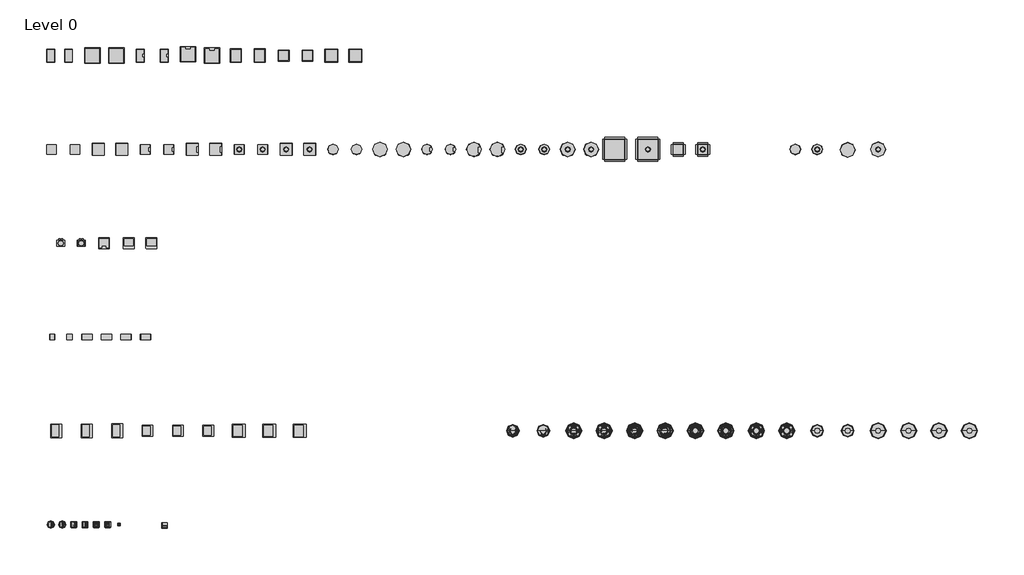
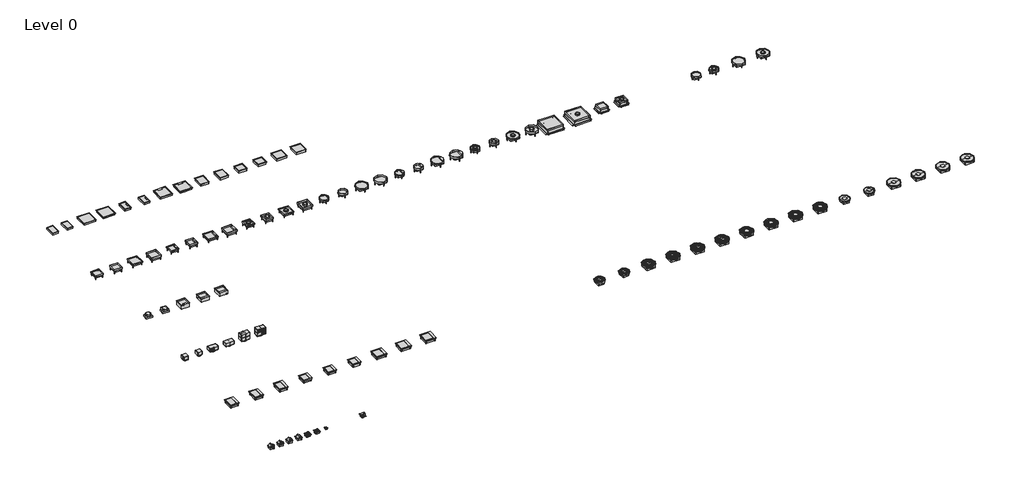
# One storey, incomplete: 90 proxies.
"""IFC4 building model written with IfcOpenShell, lengths in millimetres."""

from ifc_helpers import new_model, si_unit, origin, place, context, project, spatial, transform, mapped, element, save
from components import electrical_fixtures_743d87c8, electrical_fixtures_e7bc1b67, electrical_fixtures_7e9932c4, electrical_fixtures_4295cd90, electrical_fixtures_7c6a3819, electrical_fixtures_d994656d, electrical_fixtures_8ed366d0, electrical_fixtures_8427cab8, electrical_fixtures_0c983d80, electrical_fixtures_e9da0c22, electrical_fixtures_e29cb0aa, electrical_fixtures_c710c140, electrical_fixtures_057aeb0d, electrical_fixtures_bc096a6a, electrical_fixtures_3c529a4b, electrical_fixtures_d6e92de2, electrical_fixtures_b99c55f5, electrical_fixtures_db793506, electrical_fixtures_a87f9cbd, electrical_fixtures_5eeed26f, electrical_fixtures_7c2ed13a, electrical_fixtures_18f01fef, electrical_fixtures_62458b07, electrical_fixtures_8552437b, electrical_fixtures_c54f30ff, color_deep_black_142afe5e, color_deep_black_872dce2f, color_deep_black_c4cdae59, color_deep_black_3e0b7094, color_deep_black_f01a6ed9, color_deep_black_c19cb628, color_deep_black_09ea9520, color_deep_black_6ce427fe, color_deep_black_894d2ac0, color_deep_black_fa90bbad, color_iron_grey_202d30bf, color_iron_grey_919f03ab, color_iron_grey_fbafdded, junction_box_round_125_mm_upper_part_alum_29b8801a, junction_box_square_125_mm_upper_part_alum_607a975c, schuko_socket_2_pole_pure_white_34ad4e96, stainless_steel_cassette_q06_bl_outer_height_28mm_3feceee3, stainless_steel_cassette_q06_bl_outer_height_43mm_a47f6d24, stainless_steel_cassette_q06_le_outer_height_28mm_edae0cbb, stainless_steel_cassette_q06_le_outer_height_43mm_17e8f02e, stainless_steel_cassette_q06_tm_outer_height_28mm_42a79757, stainless_steel_cassette_q06_tm_outer_height_43mm_c42f4f61, stainless_steel_cassette_q06_blank_20_kn_74425823, stainless_steel_cassette_q12_bl_outer_height_28mm_38aa1d54, stainless_steel_cassette_q12_bl_outer_height_43mm_9d157af6, stainless_steel_cassette_q12_le_outer_height_28mm_4387def9, stainless_steel_cassette_q12_le_outer_height_43mm_76769e65, stainless_steel_cassette_q12_tm_outer_height_28mm_6e70061e, stainless_steel_cassette_q12_tm_outer_height_43mm_7061454b, stainless_steel_cassette_q405_blank_20_kn_5d11f7c2, stainless_steel_cassette_r06_bl_outer_height_28mm_a6870199, stainless_steel_cassette_r06_bl_outer_height_43mm_2dd6e790, stainless_steel_cassette_r06_le_outer_height_28mm_c526c0f7, stainless_steel_cassette_r06_le_outer_height_43mm_8ea11e9a, stainless_steel_cassette_r06_tm_outer_height_28mm_dfc4136d, stainless_steel_cassette_r06_tm_outer_height_43mm_7b33f558, stainless_steel_cassette_r06_blank_20_kn_3fd5dd5a, stainless_steel_cassette_r12_bl_outer_height_28mm_3aa149c4, stainless_steel_cassette_r12_bl_outer_height_43mm_c021857a, stainless_steel_cassette_r12_le_outer_height_28mm_2c233eef, stainless_steel_cassette_r12_le_outer_height_43mm_344dba82, stainless_steel_cassette_r12_tm_outer_height_28mm_8c430b26, stainless_steel_cassette_r12_tm_outer_height_43mm_cc083f38, stainless_steel_cassette_r12_blank_20_kn_ac97d473

model = new_model("IFC4")

# Units and contexts
model_context = context("Model", 3, world=origin())
ifc_project = project(units=[si_unit("LENGTHUNIT", "METRE", prefix="MILLI")], contexts=[model_context])

# Site, building, storey
site = spatial("IfcSite", under=ifc_project)
building = spatial("IfcBuilding", under=site)
storey = spatial("IfcBuildingStorey", under=building, Name="Level 0", Elevation=0.0)

# Proxies
placement = place(None, origin())
electrical_fixtures_shape = electrical_fixtures_743d87c8(model_context)
element("IfcBuildingElementProxy", 1, Name="Electrical_Installation_Hager_VE-EE_EKSQ405TM-Heavy-duty-cassette-Q405-with-tube-mounting-set : Stainless-steel cassette Q405 TM 20 kN", ObjectType="Electrical_Installation_Hager_VE-EE_EKSQ405TM-Heavy-duty-cassette-Q405-with-tube-mounting-set : Stainless-steel cassette Q405 TM 20 kN", at=placement, inside=storey, context=model_context, shape_type="MappedRepresentation", body=[
    mapped(electrical_fixtures_shape, transform((-9179.6527892, 1904.5454877, 0.0), x_axis=(0.0, 1.0, 0.0), y_axis=(-1.0, 0.0, 0.0), z_axis=(0.0, 0.0, 1.0))),
])
electrical_fixtures_2_shape = electrical_fixtures_e7bc1b67(model_context)
element("IfcBuildingElementProxy", 2, Name="Electrical_Installation_Hager_VE-EE_EKSQ0620TM-Heavy-duty-cassette-Q06-with-tube-mounting-set : Stainless-steel cassette Q06 TM 20 kN", ObjectType="Electrical_Installation_Hager_VE-EE_EKSQ0620TM-Heavy-duty-cassette-Q06-with-tube-mounting-set : Stainless-steel cassette Q06 TM 20 kN", at=placement, inside=storey, context=model_context, shape_type="MappedRepresentation", body=[
    mapped(electrical_fixtures_2_shape, transform((-8070.6609591, 1904.5454877, 0.0), x_axis=(0.0, 1.0, 0.0), y_axis=(-1.0, 0.0, 0.0), z_axis=(0.0, 0.0, 1.0))),
])
electrical_fixtures_3_shape = electrical_fixtures_7e9932c4(model_context)
element("IfcBuildingElementProxy", 3, Name="Electrical_Installation_Hager_VE-EE_EKSR0620TM-Heavy-duty-cassette-R06-with-tube-mounting-set : Stainless-steel cassette R06 TM 20 kN", ObjectType="Electrical_Installation_Hager_VE-EE_EKSR0620TM-Heavy-duty-cassette-R06-with-tube-mounting-set : Stainless-steel cassette R06 TM 20 kN", at=placement, inside=storey, context=model_context, shape_type="MappedRepresentation", body=[
    mapped(electrical_fixtures_3_shape, transform((-5749.7356105, 1904.5454877, 0.0), x_axis=(0.0, 1.0, 0.0), y_axis=(-1.0, 0.0, 0.0), z_axis=(0.0, 0.0, 1.0))),
])
electrical_fixtures_4_shape = electrical_fixtures_4295cd90(model_context)
element("IfcBuildingElementProxy", 4, Name="Electrical_Installation_Hager_VE-EE_EKSR1220TM-Heavy-duty-cassette-R12-with-tube-mounting-set : Stainless-steel cassette R12 TM 20 kN", ObjectType="Electrical_Installation_Hager_VE-EE_EKSR1220TM-Heavy-duty-cassette-R12-with-tube-mounting-set : Stainless-steel cassette R12 TM 20 kN", at=placement, inside=storey, context=model_context, shape_type="MappedRepresentation", body=[
    mapped(electrical_fixtures_4_shape, transform((-4516.4022772, 1904.5454877, 0.0), x_axis=(0.0, 1.0, 0.0), y_axis=(-1.0, 0.0, 0.0), z_axis=(0.0, 0.0, 1.0))),
])
electrical_fixtures_5_shape = electrical_fixtures_7c6a3819(model_context)
element("IfcBuildingElementProxy", 5, Name="Electrical_Installation_Hager_VE-EE_Pedestal-box-8 : GB pedestal box 8 inst. fields deep black", ObjectType="Electrical_Installation_Hager_VE-EE_Pedestal-box-8 : GB pedestal box 8 inst. fields deep black", at=placement, inside=storey, context=model_context, shape_type="MappedRepresentation", body=[
    mapped(electrical_fixtures_5_shape, transform((-19355.1710348, -1895.4545123, 0.0), x_axis=(0.0, 1.0, 0.0), y_axis=(-1.0, 0.0, 0.0), z_axis=(0.0, 0.0, 1.0))),
])
electrical_fixtures_6_shape = electrical_fixtures_d994656d(model_context)
element("IfcBuildingElementProxy", 6, Name="Electrical_Installation_Hager_VE-EE_Pedestal-box-2 : GB pedestal box 2 inst. fields deep black", ObjectType="Electrical_Installation_Hager_VE-EE_Pedestal-box-2 : GB pedestal box 2 inst. fields deep black", at=placement, inside=storey, context=model_context, shape_type="MappedRepresentation", body=[
    mapped(electrical_fixtures_6_shape, transform((-20897.1167656, -1895.4545123, 0.0), x_axis=(0.0, 1.0, 0.0), y_axis=(-1.0, 0.0, 0.0), z_axis=(0.0, 0.0, 1.0))),
])
electrical_fixtures_7_shape = electrical_fixtures_8ed366d0(model_context)
element("IfcBuildingElementProxy", 7, Name="Electrical_Installation_Hager_VE-EE_Pedestal-box-4 : GB pedestal box 4 inst. fields deep black", ObjectType="Electrical_Installation_Hager_VE-EE_Pedestal-box-4 : GB pedestal box 4 inst. fields deep black", at=placement, inside=storey, context=model_context, shape_type="MappedRepresentation", body=[
    mapped(electrical_fixtures_7_shape, transform((-20148.6439002, -1895.4545123, 0.0), x_axis=(0.0, 1.0, 0.0), y_axis=(-1.0, 0.0, 0.0), z_axis=(0.0, 0.0, 1.0))),
])
electrical_fixtures_8_shape = electrical_fixtures_8427cab8(model_context)
element("IfcBuildingElementProxy", 8, Name="Electrical_Installation_Hager_VE-EE_Service-unit-VQ12-made-of-stainless-steel : Electrical_Installation_Hager_VE-EE_Service-unit-VQ12-made-of-stainless-steel", ObjectType="Electrical_Installation_Hager_VE-EE_Service-unit-VQ12-made-of-stainless-steel : Electrical_Installation_Hager_VE-EE_Service-unit-VQ12-made-of-stainless-steel", at=placement, inside=storey, context=model_context, shape_type="MappedRepresentation", body=[
    mapped(electrical_fixtures_8_shape, transform((-16233.0689438, -3795.4545123, 0.0), x_axis=(0.0, 1.0, 0.0), y_axis=(-1.0, 0.0, 0.0), z_axis=(0.0, 0.0, 1.0))),
])
electrical_fixtures_9_shape = electrical_fixtures_0c983d80(model_context)
element("IfcBuildingElementProxy", 9, Name="Electrical_Installation_Hager_VE-EE_VANR_3mm_Service-unit-for-wet-cleaned-floors-for-the-installation-of-tube-cable-outlets-made-of-aluminium : Service unit R2 w set HB wet Al-Tub 3mm", ObjectType="Electrical_Installation_Hager_VE-EE_VANR_3mm_Service-unit-for-wet-cleaned-floors-for-the-installation-of-tube-cable-outlets-made-of-aluminium : Service unit R2 w set HB wet Al-Tub 3mm", at=placement, inside=storey, context=model_context, shape_type="MappedRepresentation", body=[
    mapped(electrical_fixtures_9_shape, transform((-5133.0689438, -3793.4261787, 0.0), x_axis=(0.0, 1.0, 0.0), y_axis=(-1.0, 0.0, 0.0), z_axis=(0.0, 0.0, 1.0))),
])
element("IfcBuildingElementProxy", 10, Name="Electrical_Installation_Hager_VE-EE_VANR_3mm_Service-unit-for-wet-cleaned-floors-for-the-installation-of-tube-cable-outlets-made-of-aluminium : Service unit R2 w set BD wet Al-Tub 3mm", ObjectType="Electrical_Installation_Hager_VE-EE_VANR_3mm_Service-unit-for-wet-cleaned-floors-for-the-installation-of-tube-cable-outlets-made-of-aluminium : Service unit R2 w set BD wet Al-Tub 3mm", at=placement, inside=storey, context=model_context, shape_type="MappedRepresentation", body=[
    mapped(electrical_fixtures_9_shape, transform((-5749.7356105, -3795.4545123, 0.0), x_axis=(0.0, 1.0, 0.0), y_axis=(-1.0, 0.0, 0.0), z_axis=(0.0, 0.0, 1.0))),
])
electrical_fixtures_10_shape = electrical_fixtures_e9da0c22(model_context)
element("IfcBuildingElementProxy", 11, Name="Electrical_Installation_Hager_VE-EE_VANR_3mm_Service-unit-for-wet-cleaned-floors-for-the-installation-tube-cable-outlet-made-of-aluminium : Service unit R12 w wet BD wet Al-Tub 3mm", ObjectType="Electrical_Installation_Hager_VE-EE_VANR_3mm_Service-unit-for-wet-cleaned-floors-for-the-installation-tube-cable-outlet-made-of-aluminium : Service unit R12 w wet BD wet Al-Tub 3mm", at=placement, inside=storey, context=model_context, shape_type="MappedRepresentation", body=[
    mapped(electrical_fixtures_10_shape, transform((-3899.7356105, -3795.4545123, 0.0), x_axis=(0.0, 1.0, 0.0), y_axis=(-1.0, 0.0, 0.0), z_axis=(0.0, 0.0, 1.0))),
])
electrical_fixtures_11_shape = electrical_fixtures_e29cb0aa(model_context)
element("IfcBuildingElementProxy", 12, Name="Electrical_Installation_Hager_VE-EE_VANR_3mm_Service-unit-for-wet-cleaned-floors-for-the-installation-tube-cable-outlet-made-of-aluminium : Service unit R12 w set HB wet Al-Tub 3mm", ObjectType="Electrical_Installation_Hager_VE-EE_VANR_3mm_Service-unit-for-wet-cleaned-floors-for-the-installation-tube-cable-outlet-made-of-aluminium : Service unit R12 w set HB wet Al-Tub 3mm", at=placement, inside=storey, context=model_context, shape_type="MappedRepresentation", body=[
    mapped(electrical_fixtures_11_shape, transform((-4516.4022772, -3795.4545123, 0.0), x_axis=(0.0, 1.0, 0.0), y_axis=(-1.0, 0.0, 0.0), z_axis=(0.0, 0.0, 1.0))),
])
element("IfcBuildingElementProxy", 13, Name="Electrical_Installation_Hager_VE-EE_VANR_3mm_Service-unit-for-wet-cleaned-floors-with-tube-cable-outlete-made-of-polyamide : Service unit R12 w set BD wet PA-T Al 3mm", ObjectType="Electrical_Installation_Hager_VE-EE_VANR_3mm_Service-unit-for-wet-cleaned-floors-with-tube-cable-outlete-made-of-polyamide : Service unit R12 w set BD wet PA-T Al 3mm", at=placement, inside=storey, context=model_context, shape_type="MappedRepresentation", body=[
    mapped(electrical_fixtures_10_shape, transform((-3283.0689438, -3795.4545123, 0.0), x_axis=(0.0, 1.0, 0.0), y_axis=(-1.0, 0.0, 0.0), z_axis=(0.0, 0.0, 1.0))),
])
element("IfcBuildingElementProxy", 14, Name="Electrical_Installation_Hager_VE-EE_VANR_3mm_Service-unit-for-wet-cleaned-floors-with-tube-cable-outlete-made-of-polyamide : Service unit R12 w set HB wet PA-T Al 3mm", ObjectType="Electrical_Installation_Hager_VE-EE_VANR_3mm_Service-unit-for-wet-cleaned-floors-with-tube-cable-outlete-made-of-polyamide : Service unit R12 w set HB wet PA-T Al 3mm", at=placement, inside=storey, context=model_context, shape_type="MappedRepresentation", body=[
    mapped(electrical_fixtures_11_shape, transform((-2666.4022772, -3795.4545123, 0.0), x_axis=(0.0, 1.0, 0.0), y_axis=(-1.0, 0.0, 0.0), z_axis=(0.0, 0.0, 1.0))),
])
electrical_fixtures_12_shape = electrical_fixtures_c710c140(model_context)
element("IfcBuildingElementProxy", 15, Name="Electrical_Installation_Hager_VE-EE_VANR-Service-unit-for-wet-cleaned-floors-for-the-installation-of-tube-cable-outlets-made-of-aluminium : Service unit R12 w set HB wet Al-Tub R deep black", ObjectType="Electrical_Installation_Hager_VE-EE_VANR-Service-unit-for-wet-cleaned-floors-for-the-installation-of-tube-cable-outlets-made-of-aluminium : Service unit R12 w set HB wet Al-Tub R deep black", at=placement, inside=storey, context=model_context, shape_type="MappedRepresentation", body=[
    mapped(electrical_fixtures_12_shape, transform((-11299.7356105, -3795.4545123, 0.0), x_axis=(0.0, 1.0, 0.0), y_axis=(-1.0, 0.0, 0.0), z_axis=(0.0, 0.0, 1.0))),
])
element("IfcBuildingElementProxy", 16, Name="Electrical_Installation_Hager_VE-EE_VANR-Service-unit-for-wet-cleaned-floors-for-the-installation-of-tube-cable-outlets-made-of-aluminium : Service unit R12 w set BD wet Al-Tub R deep black", ObjectType="Electrical_Installation_Hager_VE-EE_VANR-Service-unit-for-wet-cleaned-floors-for-the-installation-of-tube-cable-outlets-made-of-aluminium : Service unit R12 w set BD wet Al-Tub R deep black", at=placement, inside=storey, context=model_context, shape_type="MappedRepresentation", body=[
    mapped(electrical_fixtures_12_shape, transform((-11916.4022772, -3795.4545123, 0.0), x_axis=(0.0, 1.0, 0.0), y_axis=(-1.0, 0.0, 0.0), z_axis=(0.0, 0.0, 1.0))),
])
electrical_fixtures_13_shape = electrical_fixtures_057aeb0d(model_context)
element("IfcBuildingElementProxy", 17, Name="Electrical_Installation_Hager_VE-EE_VANR-Service-unit-for-wet-cleaned-floors-for-the-installation-tube-cable-outlet-made-of-aluminium : Service unit R12 w set BD wet Al-Tub R", ObjectType="Electrical_Installation_Hager_VE-EE_VANR-Service-unit-for-wet-cleaned-floors-for-the-installation-tube-cable-outlet-made-of-aluminium : Service unit R12 w set BD wet Al-Tub R", at=placement, inside=storey, context=model_context, shape_type="MappedRepresentation", body=[
    mapped(electrical_fixtures_13_shape, transform((-10683.0689438, -3795.4545123, 0.0), x_axis=(0.0, 1.0, 0.0), y_axis=(-1.0, 0.0, 0.0), z_axis=(0.0, 0.0, 1.0))),
])
element("IfcBuildingElementProxy", 18, Name="Electrical_Installation_Hager_VE-EE_VANR-Service-unit-for-wet-cleaned-floors-for-the-installation-tube-cable-outlet-made-of-aluminium : Service unit R12 w set HB wet Al-Tub R", ObjectType="Electrical_Installation_Hager_VE-EE_VANR-Service-unit-for-wet-cleaned-floors-for-the-installation-tube-cable-outlet-made-of-aluminium : Service unit R12 w set HB wet Al-Tub R", at=placement, inside=storey, context=model_context, shape_type="MappedRepresentation", body=[
    mapped(electrical_fixtures_13_shape, transform((-9449.7356105, -3795.4545123, 0.0), x_axis=(0.0, 1.0, 0.0), y_axis=(-1.0, 0.0, 0.0), z_axis=(0.0, 0.0, 1.0))),
])
element("IfcBuildingElementProxy", 19, Name="Electrical_Installation_Hager_VE-EE_VANR-Service-unit-for-wet-cleaned-floors-for-the-installation-tube-cable-outlet-made-of-aluminium : Service unit R12 w set HB wet Al-Tub R deep black", ObjectType="Electrical_Installation_Hager_VE-EE_VANR-Service-unit-for-wet-cleaned-floors-for-the-installation-tube-cable-outlet-made-of-aluminium : Service unit R12 w set HB wet Al-Tub R deep black", at=placement, inside=storey, context=model_context, shape_type="MappedRepresentation", body=[
    mapped(electrical_fixtures_13_shape, transform((-8833.0689438, -3795.4545123, 0.0), x_axis=(0.0, 1.0, 0.0), y_axis=(-1.0, 0.0, 0.0), z_axis=(0.0, 0.0, 1.0))),
])
element("IfcBuildingElementProxy", 20, Name="Electrical_Installation_Hager_VE-EE_VANR-Service-unit-for-wet-cleaned-floors-for-the-installation-tube-cable-outlet-made-of-aluminium : Service unit R12 w set BD wet Al-Tub R deep black", ObjectType="Electrical_Installation_Hager_VE-EE_VANR-Service-unit-for-wet-cleaned-floors-for-the-installation-tube-cable-outlet-made-of-aluminium : Service unit R12 w set BD wet Al-Tub R deep black", at=placement, inside=storey, context=model_context, shape_type="MappedRepresentation", body=[
    mapped(electrical_fixtures_13_shape, transform((-10066.4022772, -3795.4545123, 0.0), x_axis=(0.0, 1.0, 0.0), y_axis=(-1.0, 0.0, 0.0), z_axis=(0.0, 0.0, 1.0))),
])
electrical_fixtures_14_shape = electrical_fixtures_bc096a6a(model_context)
element("IfcBuildingElementProxy", 21, Name="Electrical_Installation_Hager_VE-EE_VANR-Service-unit-for-wet-cleaned-floors-with-tube-cable-outlete-made-of-polyamide : Service  unit R12 w set BD wet PA-Tub Al R", ObjectType="Electrical_Installation_Hager_VE-EE_VANR-Service-unit-for-wet-cleaned-floors-with-tube-cable-outlete-made-of-polyamide : Service  unit R12 w set BD wet PA-Tub Al R", at=placement, inside=storey, context=model_context, shape_type="MappedRepresentation", body=[
    mapped(electrical_fixtures_14_shape, transform((-8216.4022772, -3795.4545123, 0.0), x_axis=(0.0, 1.0, 0.0), y_axis=(-1.0, 0.0, 0.0), z_axis=(0.0, 0.0, 1.0))),
])
element("IfcBuildingElementProxy", 22, Name="Electrical_Installation_Hager_VE-EE_VANR-Service-unit-for-wet-cleaned-floors-with-tube-cable-outlete-made-of-polyamide : Service unit R12 w set HB wet PA-Tub Al R", ObjectType="Electrical_Installation_Hager_VE-EE_VANR-Service-unit-for-wet-cleaned-floors-with-tube-cable-outlete-made-of-polyamide : Service unit R12 w set HB wet PA-Tub Al R", at=placement, inside=storey, context=model_context, shape_type="MappedRepresentation", body=[
    mapped(electrical_fixtures_14_shape, transform((-6366.4022772, -3795.4545123, 0.0), x_axis=(0.0, 1.0, 0.0), y_axis=(-1.0, 0.0, 0.0), z_axis=(0.0, 0.0, 1.0))),
])
element("IfcBuildingElementProxy", 23, Name="Electrical_Installation_Hager_VE-EE_VANR-Service-unit-for-wet-cleaned-floors-with-tube-cable-outlete-made-of-polyamide : Service unit R12 w set HB wet PA-T Al R deep black", ObjectType="Electrical_Installation_Hager_VE-EE_VANR-Service-unit-for-wet-cleaned-floors-with-tube-cable-outlete-made-of-polyamide : Service unit R12 w set HB wet PA-T Al R deep black", at=placement, inside=storey, context=model_context, shape_type="MappedRepresentation", body=[
    mapped(electrical_fixtures_14_shape, transform((-6983.0689438, -3795.4545123, 0.0), x_axis=(0.0, 1.0, 0.0), y_axis=(-1.0, 0.0, 0.0), z_axis=(0.0, 0.0, 1.0))),
])
element("IfcBuildingElementProxy", 24, Name="Electrical_Installation_Hager_VE-EE_VANR-Service-unit-for-wet-cleaned-floors-with-tube-cable-outlete-made-of-polyamide : Service unit R12 w set BD wet PA-T Al R deep black", ObjectType="Electrical_Installation_Hager_VE-EE_VANR-Service-unit-for-wet-cleaned-floors-with-tube-cable-outlete-made-of-polyamide : Service unit R12 w set BD wet PA-T Al R deep black", at=placement, inside=storey, context=model_context, shape_type="MappedRepresentation", body=[
    mapped(electrical_fixtures_14_shape, transform((-7599.7356105, -3795.4545123, 0.0), x_axis=(0.0, 1.0, 0.0), y_axis=(-1.0, 0.0, 0.0), z_axis=(0.0, 0.0, 1.0))),
])
electrical_fixtures_15_shape = electrical_fixtures_3c529a4b(model_context)
element("IfcBuildingElementProxy", 25, Name="Electrical_Installation_Hager_VE-EE_Service-unit-VQ06-made-of-stainless-steel : Electrical_Installation_Hager_VE-EE_Service-unit-VQ06-made-of-stainless-steel", ObjectType="Electrical_Installation_Hager_VE-EE_Service-unit-VQ06-made-of-stainless-steel : Electrical_Installation_Hager_VE-EE_Service-unit-VQ06-made-of-stainless-steel", at=placement, inside=storey, context=model_context, shape_type="MappedRepresentation", body=[
    mapped(electrical_fixtures_15_shape, transform((-18083.0689438, -3795.4545123, 0.0), x_axis=(0.0, 1.0, 0.0), y_axis=(-1.0, 0.0, 0.0), z_axis=(0.0, 0.0, 1.0))),
])
electrical_fixtures_16_shape = electrical_fixtures_d6e92de2(model_context)
element("IfcBuildingElementProxy", 26, Name="Electrical_Installation_Hager_VE-EE_Device-casing-for-data-systems-technology-for-hinged-cover : Dev. cas. for KDQ08/E04 f 2 Inst.dev. R 50", ObjectType="Electrical_Installation_Hager_VE-EE_Device-casing-for-data-systems-technology-for-hinged-cover : Dev. cas. for KDQ08/E04 f 2 Inst.dev. R 50", at=placement, inside=storey, context=model_context, shape_type="MappedRepresentation", body=[
    mapped(electrical_fixtures_16_shape, transform((-18973.3184691, -5686.9306038, 0.0), x_axis=(1.0, 0.0, 0.0), y_axis=(0.0, 1.0, 0.0), z_axis=(0.0, 0.0, 1.0))),
])
electrical_fixtures_17_shape = electrical_fixtures_b99c55f5(model_context)
element("IfcBuildingElementProxy", 27, Name="Electrical_Installation_Hager_VE-EE_Floor-socket-round : Floor socket round single a. RJ45 stainl.", ObjectType="Electrical_Installation_Hager_VE-EE_Floor-socket-round : Floor socket round single a. RJ45 stainl.", at=placement, inside=storey, context=model_context, shape_type="MappedRepresentation", body=[
    mapped(electrical_fixtures_17_shape, transform((-21045.271513, -5695.4545123, 0.0), x_axis=(0.0, 1.0, 0.0), y_axis=(-1.0, 0.0, 0.0), z_axis=(0.0, 0.0, 1.0))),
])
element("IfcBuildingElementProxy", 28, Name="Electrical_Installation_Hager_VE-EE_Floor-socket-round : Floor socket round single a. RJ45 bronze", ObjectType="Electrical_Installation_Hager_VE-EE_Floor-socket-round : Floor socket round single a. RJ45 bronze", at=placement, inside=storey, context=model_context, shape_type="MappedRepresentation", body=[
    mapped(electrical_fixtures_17_shape, transform((-21275.4885178, -5695.4545123, 0.0), x_axis=(0.0, 1.0, 0.0), y_axis=(-1.0, 0.0, 0.0), z_axis=(0.0, 0.0, 1.0))),
])
electrical_fixtures_18_shape = electrical_fixtures_db793506(model_context)
element("IfcBuildingElementProxy", 29, Name="Electrical_Installation_Hager_VE-EE_Floor-socket-square : Floor socket square single a. RJ45 stainl.", ObjectType="Electrical_Installation_Hager_VE-EE_Floor-socket-square : Floor socket square single a. RJ45 stainl.", at=placement, inside=storey, context=model_context, shape_type="MappedRepresentation", body=[
    mapped(electrical_fixtures_18_shape, transform((-20584.8375032, -5695.4545123, 0.0), x_axis=(0.0, 1.0, 0.0), y_axis=(-1.0, 0.0, 0.0), z_axis=(0.0, 0.0, 1.0))),
])
element("IfcBuildingElementProxy", 30, Name="Electrical_Installation_Hager_VE-EE_Floor-socket-square : Floor socket square single a. RJ45 bronze", ObjectType="Electrical_Installation_Hager_VE-EE_Floor-socket-square : Floor socket square single a. RJ45 bronze", at=placement, inside=storey, context=model_context, shape_type="MappedRepresentation", body=[
    mapped(electrical_fixtures_18_shape, transform((-20815.0545081, -5695.4545123, 0.0), x_axis=(0.0, 1.0, 0.0), y_axis=(-1.0, 0.0, 0.0), z_axis=(0.0, 0.0, 1.0))),
])
electrical_fixtures_19_shape = electrical_fixtures_a87f9cbd(model_context)
element("IfcBuildingElementProxy", 31, Name="Electrical_Installation_Hager_VE-EE_Floor-socket-square-with-wing-opening : Floor socket square single a. RJ45 bronze", ObjectType="Electrical_Installation_Hager_VE-EE_Floor-socket-square-with-wing-opening : Floor socket square single a. RJ45 bronze", at=placement, inside=storey, context=model_context, shape_type="MappedRepresentation", body=[
    mapped(electrical_fixtures_19_shape, transform((-20354.6204983, -5695.4545123, 0.0), x_axis=(0.0, 1.0, 0.0), y_axis=(-1.0, 0.0, 0.0), z_axis=(0.0, 0.0, 1.0))),
])
electrical_fixtures_20_shape = electrical_fixtures_5eeed26f(model_context)
element("IfcBuildingElementProxy", 32, Name="Electrical_Installation_Hager_VE-EE_Complete_underfloor_junction_box_package : Compl pack junct. box incl VQ06 iron grey", ObjectType="Electrical_Installation_Hager_VE-EE_Complete_underfloor_junction_box_package : Compl pack junct. box incl VQ06 iron grey", at=placement, inside=storey, context=model_context, shape_type="MappedRepresentation", body=[
    mapped(electrical_fixtures_20_shape, transform((-19237.6265531, 4.5454877, 0.0), x_axis=(0.0, 1.0, 0.0), y_axis=(-1.0, 0.0, 0.0), z_axis=(0.0, 0.0, 1.0))),
])
electrical_fixtures_21_shape = electrical_fixtures_7c2ed13a(model_context)
element("IfcBuildingElementProxy", 33, Name="Electrical_Installation_Hager_VE-EE_Complete_underfloor_junction_box_package : Compl pack junct. box incl VQ06 deep black", ObjectType="Electrical_Installation_Hager_VE-EE_Complete_underfloor_junction_box_package : Compl pack junct. box incl VQ06 deep black", at=placement, inside=storey, context=model_context, shape_type="MappedRepresentation", body=[
    mapped(electrical_fixtures_21_shape, transform((-19697.9665632, 4.5454877, 0.0), x_axis=(0.0, 1.0, 0.0), y_axis=(-1.0, 0.0, 0.0), z_axis=(0.0, 0.0, 1.0))),
])
electrical_fixtures_22_shape = electrical_fixtures_18f01fef(model_context)
element("IfcBuildingElementProxy", 34, Name="Electrical_Installation_Hager_VE-EE_Complete_underfloor_junction_box_package_stainless_steel : Compl pack junct. box incl ss cass. Q06", ObjectType="Electrical_Installation_Hager_VE-EE_Complete_underfloor_junction_box_package_stainless_steel : Compl pack junct. box incl ss cass. Q06", at=placement, inside=storey, context=model_context, shape_type="MappedRepresentation", body=[
    mapped(electrical_fixtures_22_shape, transform((-20198.3065734, 4.5454877, 0.0), x_axis=(0.0, 1.0, 0.0), y_axis=(-1.0, 0.0, 0.0), z_axis=(0.0, 0.0, 1.0))),
])
electrical_fixtures_23_shape = electrical_fixtures_62458b07(model_context)
element("IfcBuildingElementProxy", 35, Name="Electrical_Installation_Hager_VE-EE_Service-unit-VE09-made-of-stainless-steel : Electrical_Installation_Hager_VE-EE_Service-unit-VE09-made-of-stainless-steel", ObjectType="Electrical_Installation_Hager_VE-EE_Service-unit-VE09-made-of-stainless-steel : Electrical_Installation_Hager_VE-EE_Service-unit-VE09-made-of-stainless-steel", at=placement, inside=storey, context=model_context, shape_type="MappedRepresentation", body=[
    mapped(electrical_fixtures_23_shape, transform((-19933.0689438, -3795.4545123, 0.0), x_axis=(0.0, 1.0, 0.0), y_axis=(-1.0, 0.0, 0.0), z_axis=(0.0, 0.0, 1.0))),
])
electrical_fixtures_24_shape = electrical_fixtures_8552437b(model_context)
element("IfcBuildingElementProxy", 36, Name="Electrical_Installation_Hager_VE-EE_Pedestal-box-8 : GB pedestal box 8 inst. fields iron gray", ObjectType="Electrical_Installation_Hager_VE-EE_Pedestal-box-8 : GB pedestal box 8 inst. fields iron gray", at=placement, inside=storey, context=model_context, shape_type="MappedRepresentation", body=[
    mapped(electrical_fixtures_24_shape, transform((-19751.9074675, -1895.4545123, 0.0), x_axis=(0.0, 1.0, 0.0), y_axis=(-1.0, 0.0, 0.0), z_axis=(0.0, 0.0, 1.0))),
])
element("IfcBuildingElementProxy", 37, Name="Electrical_Installation_Hager_VE-EE_Pedestal-box-2 : GB pedestal box 2 inst. fields iron gray", ObjectType="Electrical_Installation_Hager_VE-EE_Pedestal-box-2 : GB pedestal box 2 inst. fields iron gray", at=placement, inside=storey, context=model_context, shape_type="MappedRepresentation", body=[
    mapped(electrical_fixtures_6_shape, transform((-21248.8531983, -1895.4545123, 0.0), x_axis=(0.0, 1.0, 0.0), y_axis=(-1.0, 0.0, 0.0), z_axis=(0.0, 0.0, 1.0))),
])
electrical_fixtures_25_shape = electrical_fixtures_c54f30ff(model_context)
element("IfcBuildingElementProxy", 38, Name="Electrical_Installation_Hager_VE-EE_Pedestal-box-4 : GB pedestal box 4 inst. fields iron gray", ObjectType="Electrical_Installation_Hager_VE-EE_Pedestal-box-4 : GB pedestal box 4 inst. fields iron gray", at=placement, inside=storey, context=model_context, shape_type="MappedRepresentation", body=[
    mapped(electrical_fixtures_25_shape, transform((-20545.3803329, -1895.4545123, 0.0), x_axis=(0.0, 1.0, 0.0), y_axis=(-1.0, 0.0, 0.0), z_axis=(0.0, 0.0, 1.0))),
])
element("IfcBuildingElementProxy", 39, Name="Electrical_Installation_Hager_VE-EE_Floor-socket-square-with-wing-opening : Floor socket square single a. RJ45 stainl.", ObjectType="Electrical_Installation_Hager_VE-EE_Floor-socket-square-with-wing-opening : Floor socket square single a. RJ45 stainl.", at=placement, inside=storey, context=model_context, shape_type="MappedRepresentation", body=[
    mapped(electrical_fixtures_19_shape, transform((-20124.4034935, -5695.4545123, 0.0), x_axis=(0.0, 1.0, 0.0), y_axis=(-1.0, 0.0, 0.0), z_axis=(0.0, 0.0, 1.0))),
])
color_deep_black_shape = color_deep_black_142afe5e(model_context)
element("IfcBuildingElementProxy", 40, Name="Electrical_Installation_Hager_VE-EE_Cover-KDE04 : Color Deep Black", ObjectType="Electrical_Installation_Hager_VE-EE_Cover-KDE04 : Color Deep Black", at=placement, inside=storey, context=model_context, shape_type="MappedRepresentation", body=[
    mapped(color_deep_black_shape, transform((-19465.4460726, 3804.5454877, 0.0), x_axis=(0.0, 1.0, 0.0), y_axis=(-1.0, 0.0, 0.0), z_axis=(0.0, 0.0, 1.0))),
])
color_deep_black_2_shape = color_deep_black_872dce2f(model_context)
element("IfcBuildingElementProxy", 41, Name="Electrical_Installation_Hager_VE-EE_Cover-VDE09 : Color Deep Black", ObjectType="Electrical_Installation_Hager_VE-EE_Cover-VDE09 : Color Deep Black", at=placement, inside=storey, context=model_context, shape_type="MappedRepresentation", body=[
    mapped(color_deep_black_2_shape, transform((-17528.6039673, 3804.5454877, 0.0), x_axis=(0.0, 1.0, 0.0), y_axis=(-1.0, 0.0, 0.0), z_axis=(0.0, 0.0, 1.0))),
])
color_deep_black_3_shape = color_deep_black_c4cdae59(model_context)
element("IfcBuildingElementProxy", 42, Name="Electrical_Installation_Hager_VE-EE_Cover-BDE04 : Color Deep Black", ObjectType="Electrical_Installation_Hager_VE-EE_Cover-BDE04 : Color Deep Black", at=placement, inside=storey, context=model_context, shape_type="MappedRepresentation", body=[
    mapped(color_deep_black_3_shape, transform((-21282.2881779, 3804.5454877, 0.0), x_axis=(0.0, 1.0, 0.0), y_axis=(-1.0, 0.0, 0.0), z_axis=(0.0, 0.0, 1.0))),
])
color_deep_black_4_shape = color_deep_black_3e0b7094(model_context)
element("IfcBuildingElementProxy", 43, Name="Electrical_Installation_Hager_VE-EE_Cover-BDQ08 : Color Deep Black", ObjectType="Electrical_Installation_Hager_VE-EE_Cover-BDQ08 : Color Deep Black", at=placement, inside=storey, context=model_context, shape_type="MappedRepresentation", body=[
    mapped(color_deep_black_4_shape, transform((-20433.8671252, 3804.5454877, 0.0), x_axis=(0.0, 1.0, 0.0), y_axis=(-1.0, 0.0, 0.0), z_axis=(0.0, 0.0, 1.0))),
])
color_deep_black_5_shape = color_deep_black_f01a6ed9(model_context)
element("IfcBuildingElementProxy", 44, Name="Electrical_Installation_Hager_VE-EE_Cover-KDQ08 : Color Deep Black", ObjectType="Electrical_Installation_Hager_VE-EE_Cover-KDQ08 : Color Deep Black", at=placement, inside=storey, context=model_context, shape_type="MappedRepresentation", body=[
    mapped(color_deep_black_5_shape, transform((-18497.02502, 3832.7163114, 0.0), x_axis=(0.0, 1.0, 0.0), y_axis=(-1.0, 0.0, 0.0), z_axis=(0.0, 0.0, 1.0))),
])
color_deep_black_6_shape = color_deep_black_c19cb628(model_context)
element("IfcBuildingElementProxy", 45, Name="Electrical_Installation_Hager_VE-EE_Cover-VDQ12 : Color Deep Black", ObjectType="Electrical_Installation_Hager_VE-EE_Cover-VDQ12 : Color Deep Black", at=placement, inside=storey, context=model_context, shape_type="MappedRepresentation", body=[
    mapped(color_deep_black_6_shape, transform((-15591.7618621, 3804.5454877, 0.0), x_axis=(0.0, 1.0, 0.0), y_axis=(-1.0, 0.0, 0.0), z_axis=(0.0, 0.0, 1.0))),
])
color_deep_black_7_shape = color_deep_black_09ea9520(model_context)
element("IfcBuildingElementProxy", 46, Name="Electrical_Installation_Hager_VE-EE_Service-unit-VE09 : Color Deep Black", ObjectType="Electrical_Installation_Hager_VE-EE_Service-unit-VE09 : Color Deep Black", at=placement, inside=storey, context=model_context, shape_type="MappedRepresentation", body=[
    mapped(color_deep_black_7_shape, transform((-21166.4022772, -3795.4545123, 0.0), x_axis=(0.0, 1.0, 0.0), y_axis=(-1.0, 0.0, 0.0), z_axis=(0.0, 0.0, 1.0))),
])
color_deep_black_8_shape = color_deep_black_6ce427fe(model_context)
element("IfcBuildingElementProxy", 47, Name="Electrical_Installation_Hager_VE-EE_Service-unit-VQ06 : Color Deep Black", ObjectType="Electrical_Installation_Hager_VE-EE_Service-unit-VQ06 : Color Deep Black", at=placement, inside=storey, context=model_context, shape_type="MappedRepresentation", body=[
    mapped(color_deep_black_8_shape, transform((-19316.4022772, -3795.4545123, 0.0), x_axis=(0.0, 1.0, 0.0), y_axis=(-1.0, 0.0, 0.0), z_axis=(0.0, 0.0, 1.0))),
])
color_deep_black_9_shape = color_deep_black_894d2ac0(model_context)
element("IfcBuildingElementProxy", 48, Name="Electrical_Installation_Hager_VE-EE_Cover-VDQ06 : Color Deep Black", ObjectType="Electrical_Installation_Hager_VE-EE_Cover-VDQ06 : Color Deep Black", at=placement, inside=storey, context=model_context, shape_type="MappedRepresentation", body=[
    mapped(color_deep_black_9_shape, transform((-16560.1829147, 3804.5454877, 0.0), x_axis=(0.0, 1.0, 0.0), y_axis=(-1.0, 0.0, 0.0), z_axis=(0.0, 0.0, 1.0))),
])
color_deep_black_10_shape = color_deep_black_fa90bbad(model_context)
element("IfcBuildingElementProxy", 49, Name="Electrical_Installation_Hager_VE-EE_Service-Unit-VQ12 : Color Deep Black", ObjectType="Electrical_Installation_Hager_VE-EE_Service-Unit-VQ12 : Color Deep Black", at=placement, inside=storey, context=model_context, shape_type="MappedRepresentation", body=[
    mapped(color_deep_black_10_shape, transform((-17466.4022772, -3795.4545123, 0.0), x_axis=(0.0, 1.0, 0.0), y_axis=(-1.0, 0.0, 0.0), z_axis=(0.0, 0.0, 1.0))),
])
color_iron_grey_shape = color_iron_grey_202d30bf(model_context)
element("IfcBuildingElementProxy", 50, Name="Electrical_Installation_Hager_VE-EE_Cover-BDE04 : Color Iron Grey", ObjectType="Electrical_Installation_Hager_VE-EE_Cover-BDE04 : Color Iron Grey", at=placement, inside=storey, context=model_context, shape_type="MappedRepresentation", body=[
    mapped(color_iron_grey_shape, transform((-20918.0776516, 3804.5454877, 0.0), x_axis=(0.0, 1.0, 0.0), y_axis=(-1.0, 0.0, 0.0), z_axis=(0.0, 0.0, 1.0))),
])
element("IfcBuildingElementProxy", 51, Name="Electrical_Installation_Hager_VE-EE_Cover-BDQ08 : Color Iron Grey", ObjectType="Electrical_Installation_Hager_VE-EE_Cover-BDQ08 : Color Iron Grey", at=placement, inside=storey, context=model_context, shape_type="MappedRepresentation", body=[
    mapped(color_deep_black_4_shape, transform((-19949.6565989, 3804.5454877, 0.0), x_axis=(0.0, 1.0, 0.0), y_axis=(-1.0, 0.0, 0.0), z_axis=(0.0, 0.0, 1.0))),
])
color_iron_grey_2_shape = color_iron_grey_919f03ab(model_context)
element("IfcBuildingElementProxy", 52, Name="Electrical_Installation_Hager_VE-EE_Cover-KDE04 : Color Iron Grey", ObjectType="Electrical_Installation_Hager_VE-EE_Cover-KDE04 : Color Iron Grey", at=placement, inside=storey, context=model_context, shape_type="MappedRepresentation", body=[
    mapped(color_iron_grey_2_shape, transform((-18981.2355463, 3804.5454877, 0.0), x_axis=(0.0, 1.0, 0.0), y_axis=(-1.0, 0.0, 0.0), z_axis=(0.0, 0.0, 1.0))),
])
element("IfcBuildingElementProxy", 53, Name="Electrical_Installation_Hager_VE-EE_Cover-KDQ08 : Color Iron Grey", ObjectType="Electrical_Installation_Hager_VE-EE_Cover-KDQ08 : Color Iron Grey", at=placement, inside=storey, context=model_context, shape_type="MappedRepresentation", body=[
    mapped(color_deep_black_5_shape, transform((-18012.8144937, 3804.5454877, 0.0), x_axis=(0.0, 1.0, 0.0), y_axis=(-1.0, 0.0, 0.0), z_axis=(0.0, 0.0, 1.0))),
])
element("IfcBuildingElementProxy", 54, Name="Electrical_Installation_Hager_VE-EE_Cover-VDE09 : Color Iron Grey", ObjectType="Electrical_Installation_Hager_VE-EE_Cover-VDE09 : Color Iron Grey", at=placement, inside=storey, context=model_context, shape_type="MappedRepresentation", body=[
    mapped(color_deep_black_2_shape, transform((-17044.393441, 3804.5454877, 0.0), x_axis=(0.0, 1.0, 0.0), y_axis=(-1.0, 0.0, 0.0), z_axis=(0.0, 0.0, 1.0))),
])
element("IfcBuildingElementProxy", 55, Name="Electrical_Installation_Hager_VE-EE_Service-Unit-VQ12 : Color Iron Grey", ObjectType="Electrical_Installation_Hager_VE-EE_Service-Unit-VQ12 : Color Iron Grey", at=placement, inside=storey, context=model_context, shape_type="MappedRepresentation", body=[
    mapped(color_deep_black_10_shape, transform((-16849.7356105, -3795.4545123, 0.0), x_axis=(0.0, 1.0, 0.0), y_axis=(-1.0, 0.0, 0.0), z_axis=(0.0, 0.0, 1.0))),
])
element("IfcBuildingElementProxy", 56, Name="Electrical_Installation_Hager_VE-EE_Service-unit-VQ06 : Color Iron Grey", ObjectType="Electrical_Installation_Hager_VE-EE_Service-unit-VQ06 : Color Iron Grey", at=placement, inside=storey, context=model_context, shape_type="MappedRepresentation", body=[
    mapped(color_deep_black_8_shape, transform((-18699.7356105, -3795.4545123, 0.0), x_axis=(0.0, 1.0, 0.0), y_axis=(-1.0, 0.0, 0.0), z_axis=(0.0, 0.0, 1.0))),
])
element("IfcBuildingElementProxy", 57, Name="Electrical_Installation_Hager_VE-EE_Service-unit-VE09 : Color Iron Grey", ObjectType="Electrical_Installation_Hager_VE-EE_Service-unit-VE09 : Color Iron Grey", at=placement, inside=storey, context=model_context, shape_type="MappedRepresentation", body=[
    mapped(color_deep_black_7_shape, transform((-20549.7356105, -3795.4545123, 0.0), x_axis=(0.0, 1.0, 0.0), y_axis=(-1.0, 0.0, 0.0), z_axis=(0.0, 0.0, 1.0))),
])
element("IfcBuildingElementProxy", 58, Name="Electrical_Installation_Hager_VE-EE_Cover-VDQ12 : Color Iron Grey", ObjectType="Electrical_Installation_Hager_VE-EE_Cover-VDQ12 : Color Iron Grey", at=placement, inside=storey, context=model_context, shape_type="MappedRepresentation", body=[
    mapped(color_deep_black_6_shape, transform((-15107.5513358, 3804.5454877, 0.0), x_axis=(0.0, 1.0, 0.0), y_axis=(-1.0, 0.0, 0.0), z_axis=(0.0, 0.0, 1.0))),
])
color_iron_grey_3_shape = color_iron_grey_fbafdded(model_context)
element("IfcBuildingElementProxy", 59, Name="Electrical_Installation_Hager_VE-EE_Cover-VDQ06 : Color Iron Grey", ObjectType="Electrical_Installation_Hager_VE-EE_Cover-VDQ06 : Color Iron Grey", at=placement, inside=storey, context=model_context, shape_type="MappedRepresentation", body=[
    mapped(color_iron_grey_3_shape, transform((-16075.9723884, 3804.5454877, 0.0), x_axis=(0.0, 1.0, 0.0), y_axis=(-1.0, 0.0, 0.0), z_axis=(0.0, 0.0, 1.0))),
])
junction_box_round_125_mm_upper_part_alum_shape = junction_box_round_125_mm_upper_part_alum_29b8801a(model_context)
element("IfcBuildingElementProxy", 60, Name="Electrical_Installation_Hager_VE-EE_Junction-box-round : Junction box, round, 125 mm, upper part alum.", ObjectType="Electrical_Installation_Hager_VE-EE_Junction-box-round : Junction box, round, 125 mm, upper part alum.", at=placement, inside=storey, context=model_context, shape_type="MappedRepresentation", body=[
    mapped(junction_box_round_125_mm_upper_part_alum_shape, transform((-21076.4865937, 4.5454877, 0.0), x_axis=(0.0, 1.0, 0.0), y_axis=(-1.0, 0.0, 0.0), z_axis=(0.0, 0.0, 1.0))),
])
junction_box_square_125_mm_upper_part_alum_shape = junction_box_square_125_mm_upper_part_alum_607a975c(model_context)
element("IfcBuildingElementProxy", 61, Name="Electrical_Installation_Hager_VE-EE_Junction-box-square : Junction box, square, 125 mm, upper part alum.", ObjectType="Electrical_Installation_Hager_VE-EE_Junction-box-square : Junction box, square, 125 mm, upper part alum.", at=placement, inside=storey, context=model_context, shape_type="MappedRepresentation", body=[
    mapped(junction_box_square_125_mm_upper_part_alum_shape, transform((-20661.1465835, 4.5454877, 0.0), x_axis=(0.0, 1.0, 0.0), y_axis=(-1.0, 0.0, 0.0), z_axis=(0.0, 0.0, 1.0))),
])
schuko_socket_2_pole_pure_white_shape = schuko_socket_2_pole_pure_white_34ad4e96(model_context)
element("IfcBuildingElementProxy", 62, Name="Electrical_Installation_Hager_VE-EE_Schuko-Socket : Schuko socket 2-pole pure white", ObjectType="Electrical_Installation_Hager_VE-EE_Schuko-Socket : Schuko socket 2-pole pure white", at=placement, inside=storey, context=model_context, shape_type="MappedRepresentation", body=[
    mapped(schuko_socket_2_pole_pure_white_shape, transform((-19894.1864886, -5695.4545123, 0.0), x_axis=(0.0, 1.0, 0.0), y_axis=(-1.0, 0.0, 0.0), z_axis=(0.0, 0.0, 1.0))),
])
stainless_steel_cassette_q06_bl_outer_height_28mm_shape = stainless_steel_cassette_q06_bl_outer_height_28mm_3feceee3(model_context)
element("IfcBuildingElementProxy", 63, Name="Electrical_Installation_Hager_VE-EE_EKQ-Height-adjustable-stainless-steel-cassette-blank-square-for-damp-cleaned-floors.rfa : Stainless-steel cassette Q06 BL outer height 28mm", ObjectType="Electrical_Installation_Hager_VE-EE_EKQ-Height-adjustable-stainless-steel-cassette-blank-square-for-damp-cleaned-floors.rfa : Stainless-steel cassette Q06 BL outer height 28mm", at=placement, inside=storey, context=model_context, shape_type="MappedRepresentation", body=[
    mapped(stainless_steel_cassette_q06_bl_outer_height_28mm_shape, transform((-21263.3737194, 1904.5454877, 0.0), x_axis=(0.0, 1.0, 0.0), y_axis=(-1.0, 0.0, 0.0), z_axis=(0.0, 0.0, 1.0))),
])
stainless_steel_cassette_q06_bl_outer_height_43mm_shape = stainless_steel_cassette_q06_bl_outer_height_43mm_a47f6d24(model_context)
element("IfcBuildingElementProxy", 64, Name="Electrical_Installation_Hager_VE-EE_EKQ-Height-adjustable-stainless-steel-cassette-blank-square-for-damp-cleaned-floors.rfa : Stainless-steel cassette Q06 BL outer height 43mm", ObjectType="Electrical_Installation_Hager_VE-EE_EKQ-Height-adjustable-stainless-steel-cassette-blank-square-for-damp-cleaned-floors.rfa : Stainless-steel cassette Q06 BL outer height 43mm", at=placement, inside=storey, context=model_context, shape_type="MappedRepresentation", body=[
    mapped(stainless_steel_cassette_q06_bl_outer_height_43mm_shape, transform((-20788.0248822, 1904.5454877, 0.0), x_axis=(0.0, 1.0, 0.0), y_axis=(-1.0, 0.0, 0.0), z_axis=(0.0, 0.0, 1.0))),
])
stainless_steel_cassette_q06_le_outer_height_28mm_shape = stainless_steel_cassette_q06_le_outer_height_28mm_edae0cbb(model_context)
element("IfcBuildingElementProxy", 65, Name="Electrical_Installation_Hager_VE-EE_EKQ-Height-adjustable-stainless-steel-cassette-with-cable-outlet-square-for-dry-cleaned-floors : Stainless-steel cassette Q06 LE outer height 28mm", ObjectType="Electrical_Installation_Hager_VE-EE_EKQ-Height-adjustable-stainless-steel-cassette-with-cable-outlet-square-for-dry-cleaned-floors : Stainless-steel cassette Q06 LE outer height 28mm", at=placement, inside=storey, context=model_context, shape_type="MappedRepresentation", body=[
    mapped(stainless_steel_cassette_q06_le_outer_height_28mm_shape, transform((-19361.9783706, 1904.5454877, 0.0), x_axis=(0.0, 1.0, 0.0), y_axis=(-1.0, 0.0, 0.0), z_axis=(0.0, 0.0, 1.0))),
])
stainless_steel_cassette_q06_le_outer_height_43mm_shape = stainless_steel_cassette_q06_le_outer_height_43mm_17e8f02e(model_context)
element("IfcBuildingElementProxy", 66, Name="Electrical_Installation_Hager_VE-EE_EKQ-Height-adjustable-stainless-steel-cassette-with-cable-outlet-square-for-dry-cleaned-floors : Stainless-steel cassette Q06 LE outer height 43mm", ObjectType="Electrical_Installation_Hager_VE-EE_EKQ-Height-adjustable-stainless-steel-cassette-with-cable-outlet-square-for-dry-cleaned-floors : Stainless-steel cassette Q06 LE outer height 43mm", at=placement, inside=storey, context=model_context, shape_type="MappedRepresentation", body=[
    mapped(stainless_steel_cassette_q06_le_outer_height_43mm_shape, transform((-18886.6295334, 1904.5454877, 0.0), x_axis=(0.0, 1.0, 0.0), y_axis=(-1.0, 0.0, 0.0), z_axis=(0.0, 0.0, 1.0))),
])
stainless_steel_cassette_q06_tm_outer_height_28mm_shape = stainless_steel_cassette_q06_tm_outer_height_28mm_42a79757(model_context)
element("IfcBuildingElementProxy", 67, Name="Electrical_Installation_Hager_VE-EE_EKQ-Height-adjustable-stainless-steel-cassette-with-tube-mounting-set-square-for-damp-cleaned-floors : Stainless-steel cassette Q06 TM outer height 28mm", ObjectType="Electrical_Installation_Hager_VE-EE_EKQ-Height-adjustable-stainless-steel-cassette-with-tube-mounting-set-square-for-damp-cleaned-floors : Stainless-steel cassette Q06 TM outer height 28mm", at=placement, inside=storey, context=model_context, shape_type="MappedRepresentation", body=[
    mapped(stainless_steel_cassette_q06_tm_outer_height_28mm_shape, transform((-17460.5830218, 1904.5454877, 0.0), x_axis=(0.0, 1.0, 0.0), y_axis=(-1.0, 0.0, 0.0), z_axis=(0.0, 0.0, 1.0))),
])
stainless_steel_cassette_q06_tm_outer_height_43mm_shape = stainless_steel_cassette_q06_tm_outer_height_43mm_c42f4f61(model_context)
element("IfcBuildingElementProxy", 68, Name="Electrical_Installation_Hager_VE-EE_EKQ-Height-adjustable-stainless-steel-cassette-with-tube-mounting-set-square-for-damp-cleaned-floors : Stainless-steel cassette Q06 TM outer height 43mm", ObjectType="Electrical_Installation_Hager_VE-EE_EKQ-Height-adjustable-stainless-steel-cassette-with-tube-mounting-set-square-for-damp-cleaned-floors : Stainless-steel cassette Q06 TM outer height 43mm", at=placement, inside=storey, context=model_context, shape_type="MappedRepresentation", body=[
    mapped(stainless_steel_cassette_q06_tm_outer_height_43mm_shape, transform((-16985.2341846, 1904.5454877, 0.0), x_axis=(0.0, 1.0, 0.0), y_axis=(-1.0, 0.0, 0.0), z_axis=(0.0, 0.0, 1.0))),
])
stainless_steel_cassette_q06_blank_20_kn_shape = stainless_steel_cassette_q06_blank_20_kn_74425823(model_context)
element("IfcBuildingElementProxy", 69, Name="Electrical_Installation_Hager_VE-EE_EKSQ0620BL-Heavy-duty-cassette-Q06-blank : Stainless-steel cassette Q06 blank 20 kN", ObjectType="Electrical_Installation_Hager_VE-EE_EKSQ0620BL-Heavy-duty-cassette-Q06-blank : Stainless-steel cassette Q06 blank 20 kN", at=placement, inside=storey, context=model_context, shape_type="MappedRepresentation", body=[
    mapped(stainless_steel_cassette_q06_blank_20_kn_shape, transform((-8568.4776058, 1904.5454877, 0.0), x_axis=(0.0, 1.0, 0.0), y_axis=(-1.0, 0.0, 0.0), z_axis=(0.0, 0.0, 1.0))),
])
stainless_steel_cassette_q12_bl_outer_height_28mm_shape = stainless_steel_cassette_q12_bl_outer_height_28mm_38aa1d54(model_context)
element("IfcBuildingElementProxy", 70, Name="Electrical_Installation_Hager_VE-EE_EKQ-Height-adjustable-stainless-steel-cassette-blank-square-for-damp-cleaned-floors.rfa : Stainless-steel cassette Q12 BL outer height 28mm", ObjectType="Electrical_Installation_Hager_VE-EE_EKQ-Height-adjustable-stainless-steel-cassette-blank-square-for-damp-cleaned-floors.rfa : Stainless-steel cassette Q12 BL outer height 28mm", at=placement, inside=storey, context=model_context, shape_type="MappedRepresentation", body=[
    mapped(stainless_steel_cassette_q12_bl_outer_height_28mm_shape, transform((-20312.676045, 1904.5454877, 0.0), x_axis=(0.0, 1.0, 0.0), y_axis=(-1.0, 0.0, 0.0), z_axis=(0.0, 0.0, 1.0))),
])
stainless_steel_cassette_q12_bl_outer_height_43mm_shape = stainless_steel_cassette_q12_bl_outer_height_43mm_9d157af6(model_context)
element("IfcBuildingElementProxy", 71, Name="Electrical_Installation_Hager_VE-EE_EKQ-Height-adjustable-stainless-steel-cassette-blank-square-for-damp-cleaned-floors.rfa : Stainless-steel cassette Q12 BL outer height 43mm", ObjectType="Electrical_Installation_Hager_VE-EE_EKQ-Height-adjustable-stainless-steel-cassette-blank-square-for-damp-cleaned-floors.rfa : Stainless-steel cassette Q12 BL outer height 43mm", at=placement, inside=storey, context=model_context, shape_type="MappedRepresentation", body=[
    mapped(stainless_steel_cassette_q12_bl_outer_height_43mm_shape, transform((-19837.3272078, 1904.5454877, 0.0), x_axis=(0.0, 1.0, 0.0), y_axis=(-1.0, 0.0, 0.0), z_axis=(0.0, 0.0, 1.0))),
])
stainless_steel_cassette_q12_le_outer_height_28mm_shape = stainless_steel_cassette_q12_le_outer_height_28mm_4387def9(model_context)
element("IfcBuildingElementProxy", 72, Name="Electrical_Installation_Hager_VE-EE_EKQ-Height-adjustable-stainless-steel-cassette-with-cable-outlet-square-for-dry-cleaned-floors : Stainless-steel cassette Q12 LE outer height 28mm", ObjectType="Electrical_Installation_Hager_VE-EE_EKQ-Height-adjustable-stainless-steel-cassette-with-cable-outlet-square-for-dry-cleaned-floors : Stainless-steel cassette Q12 LE outer height 28mm", at=placement, inside=storey, context=model_context, shape_type="MappedRepresentation", body=[
    mapped(stainless_steel_cassette_q12_le_outer_height_28mm_shape, transform((-18411.2806962, 1904.5454877, 0.0), x_axis=(0.0, 1.0, 0.0), y_axis=(-1.0, 0.0, 0.0), z_axis=(0.0, 0.0, 1.0))),
])
stainless_steel_cassette_q12_le_outer_height_43mm_shape = stainless_steel_cassette_q12_le_outer_height_43mm_76769e65(model_context)
element("IfcBuildingElementProxy", 73, Name="Electrical_Installation_Hager_VE-EE_EKQ-Height-adjustable-stainless-steel-cassette-with-cable-outlet-square-for-dry-cleaned-floors : Stainless-steel cassette Q12 LE outer height 43mm", ObjectType="Electrical_Installation_Hager_VE-EE_EKQ-Height-adjustable-stainless-steel-cassette-with-cable-outlet-square-for-dry-cleaned-floors : Stainless-steel cassette Q12 LE outer height 43mm", at=placement, inside=storey, context=model_context, shape_type="MappedRepresentation", body=[
    mapped(stainless_steel_cassette_q12_le_outer_height_43mm_shape, transform((-17935.931859, 1904.5454877, 0.0), x_axis=(0.0, 1.0, 0.0), y_axis=(-1.0, 0.0, 0.0), z_axis=(0.0, 0.0, 1.0))),
])
stainless_steel_cassette_q12_tm_outer_height_28mm_shape = stainless_steel_cassette_q12_tm_outer_height_28mm_6e70061e(model_context)
element("IfcBuildingElementProxy", 74, Name="Electrical_Installation_Hager_VE-EE_EKQ-Height-adjustable-stainless-steel-cassette-with-tube-mounting-set-square-for-damp-cleaned-floors : Stainless-steel cassette Q12 TM outer height 28mm", ObjectType="Electrical_Installation_Hager_VE-EE_EKQ-Height-adjustable-stainless-steel-cassette-with-tube-mounting-set-square-for-damp-cleaned-floors : Stainless-steel cassette Q12 TM outer height 28mm", at=placement, inside=storey, context=model_context, shape_type="MappedRepresentation", body=[
    mapped(stainless_steel_cassette_q12_tm_outer_height_28mm_shape, transform((-16509.8853474, 1904.5454877, 0.0), x_axis=(0.0, 1.0, 0.0), y_axis=(-1.0, 0.0, 0.0), z_axis=(0.0, 0.0, 1.0))),
])
stainless_steel_cassette_q12_tm_outer_height_43mm_shape = stainless_steel_cassette_q12_tm_outer_height_43mm_7061454b(model_context)
element("IfcBuildingElementProxy", 75, Name="Electrical_Installation_Hager_VE-EE_EKQ-Height-adjustable-stainless-steel-cassette-with-tube-mounting-set-square-for-damp-cleaned-floors : Stainless-steel cassette Q12 TM outer height 43mm", ObjectType="Electrical_Installation_Hager_VE-EE_EKQ-Height-adjustable-stainless-steel-cassette-with-tube-mounting-set-square-for-damp-cleaned-floors : Stainless-steel cassette Q12 TM outer height 43mm", at=placement, inside=storey, context=model_context, shape_type="MappedRepresentation", body=[
    mapped(stainless_steel_cassette_q12_tm_outer_height_43mm_shape, transform((-16034.5365101, 1904.5454877, 0.0), x_axis=(0.0, 1.0, 0.0), y_axis=(-1.0, 0.0, 0.0), z_axis=(0.0, 0.0, 1.0))),
])
stainless_steel_cassette_q405_blank_20_kn_shape = stainless_steel_cassette_q405_blank_20_kn_5d11f7c2(model_context)
element("IfcBuildingElementProxy", 76, Name="Electrical_Installation_Hager_VE-EE_EKSQ405BL-Heavy-duty-cassette-Q405-blank : Stainless-steel cassette Q405 blank 20 kN", ObjectType="Electrical_Installation_Hager_VE-EE_EKSQ405BL-Heavy-duty-cassette-Q405-blank : Stainless-steel cassette Q405 blank 20 kN", at=placement, inside=storey, context=model_context, shape_type="MappedRepresentation", body=[
    mapped(stainless_steel_cassette_q405_blank_20_kn_shape, transform((-9855.0016264, 1904.5454877, 0.0), x_axis=(0.0, 1.0, 0.0), y_axis=(-1.0, 0.0, 0.0), z_axis=(0.0, 0.0, 1.0))),
])
stainless_steel_cassette_r06_bl_outer_height_28mm_shape = stainless_steel_cassette_r06_bl_outer_height_28mm_a6870199(model_context)
element("IfcBuildingElementProxy", 77, Name="Electrical_Installation_Hager_VE-EE_EKR-Height-adjustable-stainless-steel-cassette-blank-round-for-damp-cleaned-floors : Stainless-steel cassette R06 BL outer height 28mm", ObjectType="Electrical_Installation_Hager_VE-EE_EKR-Height-adjustable-stainless-steel-cassette-blank-round-for-damp-cleaned-floors : Stainless-steel cassette R06 BL outer height 28mm", at=placement, inside=storey, context=model_context, shape_type="MappedRepresentation", body=[
    mapped(stainless_steel_cassette_r06_bl_outer_height_28mm_shape, transform((-15559.1876729, 1904.5454877, 0.0), x_axis=(0.0, 1.0, 0.0), y_axis=(-1.0, 0.0, 0.0), z_axis=(0.0, 0.0, 1.0))),
])
stainless_steel_cassette_r06_bl_outer_height_43mm_shape = stainless_steel_cassette_r06_bl_outer_height_43mm_2dd6e790(model_context)
element("IfcBuildingElementProxy", 78, Name="Electrical_Installation_Hager_VE-EE_EKR-Height-adjustable-stainless-steel-cassette-blank-round-for-damp-cleaned-floors : Stainless-steel cassette R06 BL outer height 43mm", ObjectType="Electrical_Installation_Hager_VE-EE_EKR-Height-adjustable-stainless-steel-cassette-blank-round-for-damp-cleaned-floors : Stainless-steel cassette R06 BL outer height 43mm", at=placement, inside=storey, context=model_context, shape_type="MappedRepresentation", body=[
    mapped(stainless_steel_cassette_r06_bl_outer_height_43mm_shape, transform((-15083.8388357, 1904.5454877, 0.0), x_axis=(0.0, 1.0, 0.0), y_axis=(-1.0, 0.0, 0.0), z_axis=(0.0, 0.0, 1.0))),
])
stainless_steel_cassette_r06_le_outer_height_28mm_shape = stainless_steel_cassette_r06_le_outer_height_28mm_c526c0f7(model_context)
element("IfcBuildingElementProxy", 79, Name="Electrical_Installation_Hager_VE-EE_EKR-Height-adjustable-stainless-steel-cassette-with-square-cable-outlet-for-dry-cleaned-floors : Stainless-steel cassette R06 LE outer height 28mm", ObjectType="Electrical_Installation_Hager_VE-EE_EKR-Height-adjustable-stainless-steel-cassette-with-square-cable-outlet-for-dry-cleaned-floors : Stainless-steel cassette R06 LE outer height 28mm", at=placement, inside=storey, context=model_context, shape_type="MappedRepresentation", body=[
    mapped(stainless_steel_cassette_r06_le_outer_height_28mm_shape, transform((-13657.7923241, 1904.5454877, 0.0), x_axis=(0.0, 1.0, 0.0), y_axis=(-1.0, 0.0, 0.0), z_axis=(0.0, 0.0, 1.0))),
])
stainless_steel_cassette_r06_le_outer_height_43mm_shape = stainless_steel_cassette_r06_le_outer_height_43mm_8ea11e9a(model_context)
element("IfcBuildingElementProxy", 80, Name="Electrical_Installation_Hager_VE-EE_EKR-Height-adjustable-stainless-steel-cassette-with-square-cable-outlet-for-dry-cleaned-floors : Stainless-steel cassette R06 LE outer height 43mm", ObjectType="Electrical_Installation_Hager_VE-EE_EKR-Height-adjustable-stainless-steel-cassette-with-square-cable-outlet-for-dry-cleaned-floors : Stainless-steel cassette R06 LE outer height 43mm", at=placement, inside=storey, context=model_context, shape_type="MappedRepresentation", body=[
    mapped(stainless_steel_cassette_r06_le_outer_height_43mm_shape, transform((-13182.4434869, 1904.5454877, 0.0), x_axis=(0.0, 1.0, 0.0), y_axis=(-1.0, 0.0, 0.0), z_axis=(0.0, 0.0, 1.0))),
])
stainless_steel_cassette_r06_tm_outer_height_28mm_shape = stainless_steel_cassette_r06_tm_outer_height_28mm_dfc4136d(model_context)
element("IfcBuildingElementProxy", 81, Name="Electrical_Installation_Hager_VE-EE_EKR-Height-adjustable-stainless-steel-cassette-with-tube-mounting-set-round-for-damp-cleaned-floors : Stainless-steel cassette R06 TM outer height 28mm", ObjectType="Electrical_Installation_Hager_VE-EE_EKR-Height-adjustable-stainless-steel-cassette-with-tube-mounting-set-round-for-damp-cleaned-floors : Stainless-steel cassette R06 TM outer height 28mm", at=placement, inside=storey, context=model_context, shape_type="MappedRepresentation", body=[
    mapped(stainless_steel_cassette_r06_tm_outer_height_28mm_shape, transform((-11756.3969753, 1904.5454877, 0.0), x_axis=(0.0, 1.0, 0.0), y_axis=(-1.0, 0.0, 0.0), z_axis=(0.0, 0.0, 1.0))),
])
stainless_steel_cassette_r06_tm_outer_height_43mm_shape = stainless_steel_cassette_r06_tm_outer_height_43mm_7b33f558(model_context)
element("IfcBuildingElementProxy", 82, Name="Electrical_Installation_Hager_VE-EE_EKR-Height-adjustable-stainless-steel-cassette-with-tube-mounting-set-round-for-damp-cleaned-floors : Stainless-steel cassette R06 TM outer height 43mm", ObjectType="Electrical_Installation_Hager_VE-EE_EKR-Height-adjustable-stainless-steel-cassette-with-tube-mounting-set-round-for-damp-cleaned-floors : Stainless-steel cassette R06 TM outer height 43mm", at=placement, inside=storey, context=model_context, shape_type="MappedRepresentation", body=[
    mapped(stainless_steel_cassette_r06_tm_outer_height_43mm_shape, transform((-11281.0481381, 1904.5454877, 0.0), x_axis=(0.0, 1.0, 0.0), y_axis=(-1.0, 0.0, 0.0), z_axis=(0.0, 0.0, 1.0))),
])
stainless_steel_cassette_r06_blank_20_kn_shape = stainless_steel_cassette_r06_blank_20_kn_3fd5dd5a(model_context)
element("IfcBuildingElementProxy", 83, Name="Electrical_Installation_Hager_VE-EE_EKSR0620BL-Heavy-duty-cassette-R06-blank : Stainless-steel cassette R06 blank 20 kN", ObjectType="Electrical_Installation_Hager_VE-EE_EKSR0620BL-Heavy-duty-cassette-R06-blank : Stainless-steel cassette R06 blank 20 kN", at=placement, inside=storey, context=model_context, shape_type="MappedRepresentation", body=[
    mapped(stainless_steel_cassette_r06_blank_20_kn_shape, transform((-6194.6103819, 1904.5454877, 0.0), x_axis=(0.0, 1.0, 0.0), y_axis=(-1.0, 0.0, 0.0), z_axis=(0.0, 0.0, 1.0))),
])
stainless_steel_cassette_r12_bl_outer_height_28mm_shape = stainless_steel_cassette_r12_bl_outer_height_28mm_3aa149c4(model_context)
element("IfcBuildingElementProxy", 84, Name="Electrical_Installation_Hager_VE-EE_EKR-Height-adjustable-stainless-steel-cassette-blank-round-for-damp-cleaned-floors : Stainless-steel cassette R12 BL outer height 28mm", ObjectType="Electrical_Installation_Hager_VE-EE_EKR-Height-adjustable-stainless-steel-cassette-blank-round-for-damp-cleaned-floors : Stainless-steel cassette R12 BL outer height 28mm", at=placement, inside=storey, context=model_context, shape_type="MappedRepresentation", body=[
    mapped(stainless_steel_cassette_r12_bl_outer_height_28mm_shape, transform((-14608.4899985, 1904.5454877, 0.0), x_axis=(0.0, 1.0, 0.0), y_axis=(-1.0, 0.0, 0.0), z_axis=(0.0, 0.0, 1.0))),
])
stainless_steel_cassette_r12_bl_outer_height_43mm_shape = stainless_steel_cassette_r12_bl_outer_height_43mm_c021857a(model_context)
element("IfcBuildingElementProxy", 85, Name="Electrical_Installation_Hager_VE-EE_EKR-Height-adjustable-stainless-steel-cassette-blank-round-for-damp-cleaned-floors : Stainless-steel cassette R12 BL outer height 43mm", ObjectType="Electrical_Installation_Hager_VE-EE_EKR-Height-adjustable-stainless-steel-cassette-blank-round-for-damp-cleaned-floors : Stainless-steel cassette R12 BL outer height 43mm", at=placement, inside=storey, context=model_context, shape_type="MappedRepresentation", body=[
    mapped(stainless_steel_cassette_r12_bl_outer_height_43mm_shape, transform((-14133.1411613, 1904.5454877, 0.0), x_axis=(0.0, 1.0, 0.0), y_axis=(-1.0, 0.0, 0.0), z_axis=(0.0, 0.0, 1.0))),
])
stainless_steel_cassette_r12_le_outer_height_28mm_shape = stainless_steel_cassette_r12_le_outer_height_28mm_2c233eef(model_context)
element("IfcBuildingElementProxy", 86, Name="Electrical_Installation_Hager_VE-EE_EKR-Height-adjustable-stainless-steel-cassette-with-square-cable-outlet-for-dry-cleaned-floors : Stainless-steel cassette R12 LE outer height 28mm", ObjectType="Electrical_Installation_Hager_VE-EE_EKR-Height-adjustable-stainless-steel-cassette-with-square-cable-outlet-for-dry-cleaned-floors : Stainless-steel cassette R12 LE outer height 28mm", at=placement, inside=storey, context=model_context, shape_type="MappedRepresentation", body=[
    mapped(stainless_steel_cassette_r12_le_outer_height_28mm_shape, transform((-12707.0946497, 1904.5454877, 0.0), x_axis=(0.0, 1.0, 0.0), y_axis=(-1.0, 0.0, 0.0), z_axis=(0.0, 0.0, 1.0))),
])
stainless_steel_cassette_r12_le_outer_height_43mm_shape = stainless_steel_cassette_r12_le_outer_height_43mm_344dba82(model_context)
element("IfcBuildingElementProxy", 87, Name="Electrical_Installation_Hager_VE-EE_EKR-Height-adjustable-stainless-steel-cassette-with-square-cable-outlet-for-dry-cleaned-floors : Stainless-steel cassette R12 LE outer height 43mm", ObjectType="Electrical_Installation_Hager_VE-EE_EKR-Height-adjustable-stainless-steel-cassette-with-square-cable-outlet-for-dry-cleaned-floors : Stainless-steel cassette R12 LE outer height 43mm", at=placement, inside=storey, context=model_context, shape_type="MappedRepresentation", body=[
    mapped(stainless_steel_cassette_r12_le_outer_height_43mm_shape, transform((-12231.7458125, 1904.5454877, 0.0), x_axis=(0.0, 1.0, 0.0), y_axis=(-1.0, 0.0, 0.0), z_axis=(0.0, 0.0, 1.0))),
])
stainless_steel_cassette_r12_tm_outer_height_28mm_shape = stainless_steel_cassette_r12_tm_outer_height_28mm_8c430b26(model_context)
element("IfcBuildingElementProxy", 88, Name="Electrical_Installation_Hager_VE-EE_EKR-Height-adjustable-stainless-steel-cassette-with-tube-mounting-set-round-for-damp-cleaned-floors : Stainless-steel cassette R12 TM outer height 28mm", ObjectType="Electrical_Installation_Hager_VE-EE_EKR-Height-adjustable-stainless-steel-cassette-with-tube-mounting-set-round-for-damp-cleaned-floors : Stainless-steel cassette R12 TM outer height 28mm", at=placement, inside=storey, context=model_context, shape_type="MappedRepresentation", body=[
    mapped(stainless_steel_cassette_r12_tm_outer_height_28mm_shape, transform((-10805.6993008, 1904.5454877, 0.0), x_axis=(0.0, 1.0, 0.0), y_axis=(-1.0, 0.0, 0.0), z_axis=(0.0, 0.0, 1.0))),
])
stainless_steel_cassette_r12_tm_outer_height_43mm_shape = stainless_steel_cassette_r12_tm_outer_height_43mm_cc083f38(model_context)
element("IfcBuildingElementProxy", 89, Name="Electrical_Installation_Hager_VE-EE_EKR-Height-adjustable-stainless-steel-cassette-with-tube-mounting-set-round-for-damp-cleaned-floors : Stainless-steel cassette R12 TM outer height 43mm", ObjectType="Electrical_Installation_Hager_VE-EE_EKR-Height-adjustable-stainless-steel-cassette-with-tube-mounting-set-round-for-damp-cleaned-floors : Stainless-steel cassette R12 TM outer height 43mm", at=placement, inside=storey, context=model_context, shape_type="MappedRepresentation", body=[
    mapped(stainless_steel_cassette_r12_tm_outer_height_43mm_shape, transform((-10330.3504636, 1904.5454877, 0.0), x_axis=(0.0, 1.0, 0.0), y_axis=(-1.0, 0.0, 0.0), z_axis=(0.0, 0.0, 1.0))),
])
stainless_steel_cassette_r12_blank_20_kn_shape = stainless_steel_cassette_r12_blank_20_kn_ac97d473(model_context)
element("IfcBuildingElementProxy", 90, Name="Electrical_Installation_Hager_VE-EE_EKSR1220BL-Heavy-duty-cassette-R12-blank : Stainless-steel cassette R12 blank 20 kN", ObjectType="Electrical_Installation_Hager_VE-EE_EKSR1220BL-Heavy-duty-cassette-R12-blank : Stainless-steel cassette R12 blank 20 kN", at=placement, inside=storey, context=model_context, shape_type="MappedRepresentation", body=[
    mapped(stainless_steel_cassette_r12_blank_20_kn_shape, transform((-5134.0116503, 1894.19425, 0.0), x_axis=(0.0, 1.0, 0.0), y_axis=(-1.0, 0.0, 0.0), z_axis=(0.0, 0.0, 1.0))),
])

save(model, "model.ifc")
